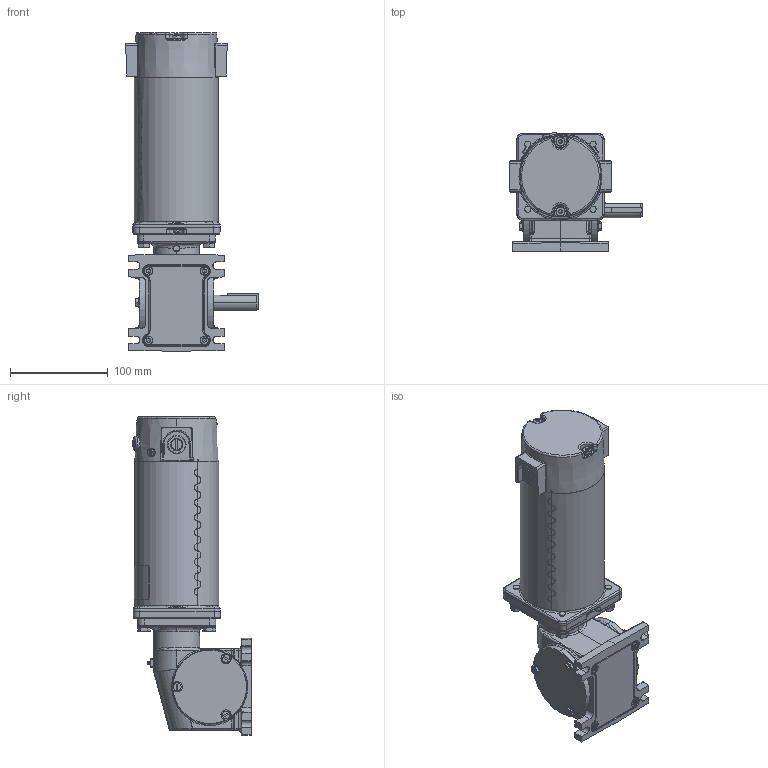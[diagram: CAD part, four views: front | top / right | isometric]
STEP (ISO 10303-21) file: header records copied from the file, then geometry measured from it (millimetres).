
FILE_DESCRIPTION (( 'STEP AP203' ), '1' );
FILE_NAME ('M1030350-M1135044_Rev14.STEP', '2017-12-12T09:24:11', ( '' ), ( '' ), 'SwSTEP 2.0', 'SolidWorks 2015', '' );
FILE_SCHEMA (( 'CONFIG_CONTROL_DESIGN' ));
Length unit declared in the file: inch
Products named in the file (1): M1030350-M1135044_Rev14
Bounding box: 135.8 x 121.26 x 325.96 mm (x, y, z)
Volume: 618966.3 mm3; surface area: 298127 mm2
Topology: 43 solids, 43 shells, 3444 faces, 8328 edges, 5019 vertices
Faces by surface type: plane 1036, cylinder 979, bspline 757, cone 321, torus 265, sphere 86
Entity records: 121008 total; most frequent: CARTESIAN_POINT 46103, ORIENTED_EDGE 16508, DIRECTION 14286, EDGE_CURVE 8254, AXIS2_PLACEMENT_3D 5364, VERTEX_POINT 5017, EDGE_LOOP 3659, LINE 3558
